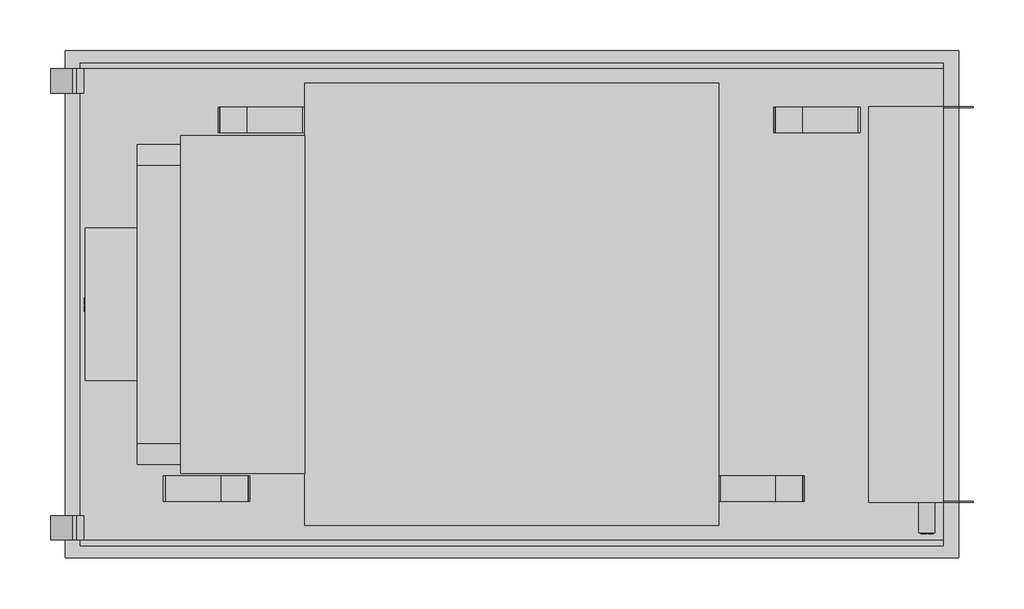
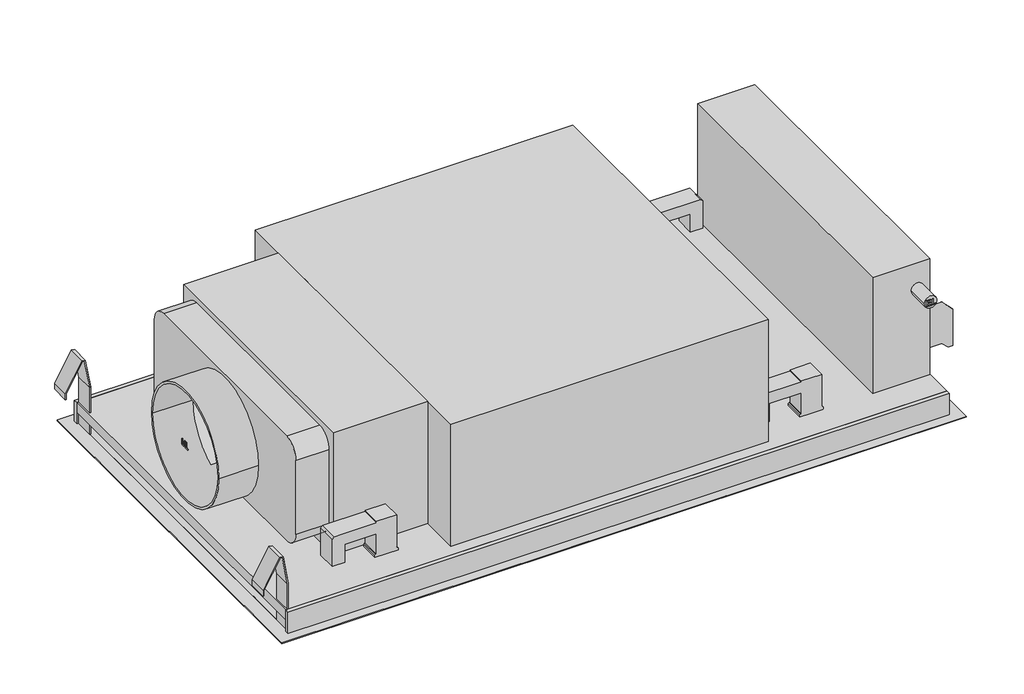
# Not in any storey: 1 proxy.
"""IFC4 building model written with IfcOpenShell, lengths in millimetres."""

import ifcopenshell
import ifcopenshell.guid

model = None  # the IFC model being written
_history = None  # IfcOwnerHistory: only IFC2X3 demands one
_inside = {}  # id of a spatial element -> (the spatial element, [elements in it])
_under = {}  # id of a project, library or spatial element -> (it, [spatial elements below it])
_declared = {}  # id of a project -> (the project, [libraries it declares])
_typed = {}  # id of a type object -> (the type object, [elements of that type])
_made_of = {}  # id of a material, layer set ... -> (it, [elements and type objects made of it])


def new_model(schema):
    """Start an empty IFC model of exactly this schema.

    Asked for "IFC4X3", IfcOpenShell would pick the latest addendum, in which some entities
    have other attributes; the version numbers below select the first issue.
    IFC2X3 requires an IfcOwnerHistory on every rooted entity: one is made here for all.
    """
    global model, _history
    if schema == "IFC4X3":
        model = ifcopenshell.file(schema_version=(4, 3, 0, 0))
    else:
        model = ifcopenshell.file(schema=schema)
    _inside.clear()
    _under.clear()
    _declared.clear()
    _typed.clear()
    _made_of.clear()
    _history = None
    if model.schema == "IFC2X3":
        org = make("IfcOrganization", Name="unknown")
        user = make(
            "IfcPersonAndOrganization",
            ThePerson=make("IfcPerson", FamilyName="unknown"),
            TheOrganization=org,
        )
        app = make(
            "IfcApplication",
            ApplicationDeveloper=org,
            Version="unknown",
            ApplicationFullName="unknown",
            ApplicationIdentifier="unknown",
        )
        _history = make(
            "IfcOwnerHistory",
            OwningUser=user,
            OwningApplication=app,
            ChangeAction="ADDED",
            CreationDate=0,
        )
    return model


def make(cls, **values):
    """One entity of the class cls with the attributes given. An attribute that is None is left unset."""
    return model.create_entity(
        cls, **{name: value for name, value in values.items() if value is not None}
    )


def rooted(cls, **values):
    """An entity with a GlobalId (a new one), such as an element, a storey or a relation."""
    return make(cls, GlobalId=ifcopenshell.guid.new(), OwnerHistory=_history, **values)


def si_unit(unit_type, name, prefix=None):
    """IfcSIUnit, for example si_unit("LENGTHUNIT", "METRE", prefix="MILLI")."""
    return make("IfcSIUnit", UnitType=unit_type, Prefix=prefix, Name=name)


def assignment(units):
    """IfcUnitAssignment: the units of a project."""
    return None if units is None else make("IfcUnitAssignment", Units=units)


def point(xyz):
    """IfcCartesianPoint."""
    return None if xyz is None else make("IfcCartesianPoint", Coordinates=xyz)


def direction(xyz):
    """IfcDirection."""
    return None if xyz is None else make("IfcDirection", DirectionRatios=xyz)


def frame(location, z_axis=None, x_axis=None):
    """IfcAxis2Placement3D, a coordinate frame: its origin and axes. An axis left out is left unset."""
    return make(
        "IfcAxis2Placement3D",
        Location=point(location),
        Axis=direction(z_axis),
        RefDirection=direction(x_axis),
    )


def frame_2d(location, x_axis=None):
    """IfcAxis2Placement2D, a coordinate frame in the plane: its origin and x axis."""
    return make(
        "IfcAxis2Placement2D", Location=point(location), RefDirection=direction(x_axis)
    )


def origin():
    """The frame at (0, 0, 0) with its axes left unset."""
    return frame((0.0, 0.0, 0.0))


def origin_with_axes():
    """The frame at (0, 0, 0) with the z axis (0, 0, 1) and the x axis (1, 0, 0) written out."""
    return frame((0.0, 0.0, 0.0), z_axis=(0.0, 0.0, 1.0), x_axis=(1.0, 0.0, 0.0))


def place(relative_to, where):
    """IfcLocalPlacement: puts the frame where relative to a parent placement (None: the world)."""
    return make(
        "IfcLocalPlacement", PlacementRelTo=relative_to, RelativePlacement=where
    )


def context(
    kind, dimensions, precision=None, world=None, true_north=None, identifier=None
):
    """IfcGeometricRepresentationContext, for example the 3D "Model" context."""
    return make(
        "IfcGeometricRepresentationContext",
        ContextIdentifier=identifier,
        ContextType=kind,
        CoordinateSpaceDimension=dimensions,
        Precision=precision,
        WorldCoordinateSystem=world,
        TrueNorth=true_north,
    )


def project(units=None, contexts=None):
    """IfcProject with its units and contexts."""
    return rooted(
        "IfcProject",
        Name="project",
        RepresentationContexts=contexts,
        UnitsInContext=assignment(units),
    )


def spatial(cls, under=None, at=None, **own):
    """A site, building, storey or space (cls), placed at a placement, below another one or the project."""
    s = rooted(cls, ObjectPlacement=at, **own)
    if under is not None:
        _under.setdefault(under.id(), (under, []))[1].append(s)
    return s


def polyline(points):
    """IfcPolyline through the points."""
    return make("IfcPolyline", Points=[point(p) for p in points])


def circle_curve(where, radius):
    """IfcCircle in the frame where."""
    return make("IfcCircle", Position=where, Radius=radius)


def ellipse_curve(where, semi_axis1, semi_axis2):
    """IfcEllipse in the frame where."""
    return make(
        "IfcEllipse", Position=where, SemiAxis1=semi_axis1, SemiAxis2=semi_axis2
    )


def trimmed(basis, trim1, trim2, sense, master):
    """IfcTrimmedCurve: the piece of a basis curve between two trims."""
    return make(
        "IfcTrimmedCurve",
        BasisCurve=basis,
        Trim1=trim1,
        Trim2=trim2,
        SenseAgreement=sense,
        MasterRepresentation=master,
    )


def segment(curve, same_sense, transition):
    """IfcCompositeCurveSegment."""
    return make(
        "IfcCompositeCurveSegment",
        Transition=transition,
        SameSense=same_sense,
        ParentCurve=curve,
    )


def composite_curve(segments, self_intersect=None):
    """IfcCompositeCurve: segments joined end to end."""
    return make("IfcCompositeCurve", Segments=segments, SelfIntersect=self_intersect)


def outline(outer, holes=None, kind="AREA"):
    """IfcArbitraryClosedProfileDef: a profile drawn as a closed curve; with holes, ...WithVoids."""
    if holes is None:
        return make("IfcArbitraryClosedProfileDef", ProfileType=kind, OuterCurve=outer)
    return make(
        "IfcArbitraryProfileDefWithVoids",
        ProfileType=kind,
        OuterCurve=outer,
        InnerCurves=holes,
    )


def extrude(swept, where, along, depth):
    """IfcExtrudedAreaSolid: the profile swept, set in the frame where, extruded along a direction by depth."""
    return make(
        "IfcExtrudedAreaSolid",
        SweptArea=swept,
        Position=where,
        ExtrudedDirection=direction(along),
        Depth=depth,
    )


def faces_of(points, faces, orient=None, outer=None):
    """IfcFace entities. A face is a list of loops; a loop is a list of indices into points, from 0.

    orient and outer hold one flag for each loop. By default every Orientation is true, the
    first loop of a face is its IfcFaceOuterBound and the others are IfcFaceBound.
    """
    made = []
    for i, loops in enumerate(faces):
        bounds = []
        for j, loop in enumerate(loops):
            is_outer = j == 0 if outer is None else outer[i][j]
            bounds.append(
                make(
                    "IfcFaceOuterBound" if is_outer else "IfcFaceBound",
                    Bound=make("IfcPolyLoop", Polygon=[points[k] for k in loop]),
                    Orientation=True if orient is None else orient[i][j],
                )
            )
        made.append(make("IfcFace", Bounds=bounds))
    return made


def faceted_brep(points, faces, orient=None, outer=None, voids=None):
    """IfcFacetedBrep: a solid bounded by flat faces; with voids (closed shells), ...WithVoids."""
    shared = [point(p) for p in points]
    hull = make("IfcClosedShell", CfsFaces=faces_of(shared, faces, orient, outer))
    if voids is None:
        return make("IfcFacetedBrep", Outer=hull)
    return make(
        "IfcFacetedBrepWithVoids",
        Outer=hull,
        Voids=[
            make(cls, CfsFaces=faces_of(shared, fs, o, b)) for cls, fs, o, b in voids
        ],
    )


def shape(context_of_items, identifier, shape_type, items):
    """IfcShapeRepresentation: the items that make up one representation, for example the "Body"."""
    return make(
        "IfcShapeRepresentation",
        ContextOfItems=context_of_items,
        RepresentationIdentifier=identifier,
        RepresentationType=shape_type,
        Items=items,
    )


def source(mapping_origin, context_of_items, identifier, shape_type, items):
    """IfcRepresentationMap: a shape defined once, which mapped items show again and again."""
    return make(
        "IfcRepresentationMap",
        MappingOrigin=mapping_origin,
        MappedRepresentation=shape(context_of_items, identifier, shape_type, items),
    )


def transform(
    local_origin,
    x_axis=None,
    y_axis=None,
    z_axis=None,
    scale=None,
    scale2=None,
    scale3=None,
    uniform=True,
):
    """IfcCartesianTransformationOperator3D, or its non-uniform kind. x_axis, y_axis, z_axis: its Axis1, 2, 3."""
    if uniform:
        return make(
            "IfcCartesianTransformationOperator3D",
            Axis1=direction(x_axis),
            Axis2=direction(y_axis),
            LocalOrigin=point(local_origin),
            Scale=scale,
            Axis3=direction(z_axis),
        )
    return make(
        "IfcCartesianTransformationOperator3DnonUniform",
        Axis1=direction(x_axis),
        Axis2=direction(y_axis),
        LocalOrigin=point(local_origin),
        Scale=scale,
        Axis3=direction(z_axis),
        Scale2=scale2,
        Scale3=scale3,
    )


def mapped(mapping_source, mapping_target):
    """IfcMappedItem: shows the shape of a source again, moved by a transform."""
    return make(
        "IfcMappedItem", MappingSource=mapping_source, MappingTarget=mapping_target
    )


def made_of(thing, what):
    """Note that an element or type object is made of a material, layer set ...; save() writes the relation."""
    if what is not None:
        _made_of.setdefault(what.id(), (what, []))[1].append(thing)
    return thing


def element(
    cls,
    number,
    at=None,
    inside=None,
    cuts=None,
    type_object=None,
    material=None,
    context=None,
    identifier="Body",
    shape_type=None,
    held_by="IfcProductDefinitionShape",
    body=None,
    shapes=None,
    **own,
):
    """One element of the class cls, such as IfcWall. Its Tag is "e" and its number.

    at: its placement. inside: the storey or other place that contains it. cuts: it is an
    opening in that element (IfcRelVoidsElement). A single representation is given by context,
    identifier, shape_type and body (its items); several are given by shapes. held_by: the class
    of the entity that holds the representations. save() writes the other relations.
    """
    e = rooted(cls, Tag="e%d" % number, ObjectPlacement=at, **own)
    if body is not None:
        shapes = [shape(context, identifier, shape_type, body)]
    if shapes is not None:
        e.Representation = make(held_by, Representations=shapes)
    if inside is not None:
        _inside.setdefault(inside.id(), (inside, []))[1].append(e)
    if cuts is not None:
        rooted(
            "IfcRelVoidsElement", RelatingBuildingElement=cuts, RelatedOpeningElement=e
        )
    if type_object is not None:
        _typed.setdefault(type_object.id(), (type_object, []))[1].append(e)
    return made_of(e, material)


def aggregate(whole, parts):
    """IfcRelAggregates: a whole, such as a stair, and the parts it consists of."""
    return rooted("IfcRelAggregates", RelatingObject=whole, RelatedObjects=parts)


def save(model, path):
    """Write the relations noted so far, then the file.

    IfcRelAggregates (storeys below a building ...), IfcRelContainedInSpatialStructure (elements
    in a storey), IfcRelDefinesByType, IfcRelAssociatesMaterial and IfcRelDeclares: one each for
    every whole, place, type object, material and project.
    """
    for whole, parts in _under.values():
        aggregate(whole, parts)
    for where, things in _inside.values():
        rooted(
            "IfcRelContainedInSpatialStructure",
            RelatedElements=things,
            RelatingStructure=where,
        )
    for kind, things in _typed.values():
        rooted("IfcRelDefinesByType", RelatedObjects=things, RelatingType=kind)
    for what, things in _made_of.values():
        rooted("IfcRelAssociatesMaterial", RelatedObjects=things, RelatingMaterial=what)
    for by, libraries in _declared.values():
        rooted("IfcRelDeclares", RelatingContext=by, RelatedDefinitions=libraries)
    model.write(path)


def plane_surface(at):
    """IfcPlane: the flat surface through the origin of the frame at, square to its z axis."""
    return make("IfcPlane", Position=at)


def cylinder_surface(at, radius):
    """IfcCylindricalSurface: all points at the distance radius from the z axis of the frame at."""
    return make("IfcCylindricalSurface", Position=at, Radius=radius)


def revolved_surface(curve, axis_point, axis_direction):
    """IfcSurfaceOfRevolution: the curve turned about the line through axis_point along axis_direction."""
    return make(
        "IfcSurfaceOfRevolution",
        SweptCurve=make("IfcArbitraryOpenProfileDef", ProfileType="CURVE", Curve=curve),
        AxisPosition=make("IfcAxis1Placement", Location=point(axis_point), Axis=direction(axis_direction)),
    )


def extruded_surface(curve, direction_of_extrusion, depth):
    """IfcSurfaceOfLinearExtrusion: the curve pushed along a direction by depth."""
    return make(
        "IfcSurfaceOfLinearExtrusion",
        SweptCurve=make("IfcArbitraryOpenProfileDef", ProfileType="CURVE", Curve=curve),
        ExtrudedDirection=direction(direction_of_extrusion),
        Depth=depth,
    )


def advanced_brep(points, edges, surfaces, faces):
    """IfcAdvancedBrep: a solid bounded by faces that lie on surfaces and meet in shared edges.

    An edge is (start, end): straight between two places in points (the first is 0);
    or (start, end, curve); or (start, end, curve, False) where it runs against its curve.
    A face is (place in surfaces, loops), or (place, loops, False) where it looks against
    its surface's normal. A loop lists edges by number (the first is 1), with a minus sign
    where the edge is run from its end to its start. The first loop is the outer one.
    """
    corners = [point(p) for p in points]
    vertices = [make("IfcVertexPoint", VertexGeometry=c) for c in corners]
    made = []
    for start, end, *more in edges:
        made.append(
            make(
                "IfcEdgeCurve",
                EdgeStart=vertices[start],
                EdgeEnd=vertices[end],
                EdgeGeometry=more[0] if more else make("IfcPolyline", Points=[corners[start], corners[end]]),
                SameSense=more[1] if len(more) > 1 else True,
            )
        )
    hull = []
    for where, loops, *sense in faces:
        bounds = []
        for j, loop in enumerate(loops):
            ring = [make("IfcOrientedEdge", EdgeElement=made[abs(k) - 1], Orientation=k > 0) for k in loop]
            bounds.append(
                make(
                    "IfcFaceOuterBound" if j == 0 else "IfcFaceBound",
                    Bound=make("IfcEdgeLoop", EdgeList=ring),
                    Orientation=True,
                )
            )
        hull.append(make("IfcAdvancedFace", Bounds=bounds, FaceSurface=surfaces[where], SameSense=sense[0] if sense else True))
    return make("IfcAdvancedBrep", Outer=make("IfcClosedShell", CfsFaces=hull))


def specialty_equipment_2b08fcfb(model_context):
    return source(origin(), model_context, "Body", "SolidModel", [
        extrude(outline(polyline([(0.0, 0.0), (1.1495, 0.0), (1.1495, 6.3555), (0.0, 6.3555), (0.0, 7.9515), (4.18, 7.9515), (4.18, 6.3555), (3.04, 6.3555), (3.04, 2.3238752), (7.2865, 7.9515), (11.552, 2.1987777), (11.552, 6.3555), (10.3835, 6.3555), (10.3835, 7.9515), (17.9645, 7.9515), (17.9645, 6.3555), (16.758, 6.3555), (16.758, 0.0), (17.9645, 0.0), (17.9645, -1.5485), (12.179, -1.5485), (9.405, 2.014), (6.6215, -1.5485), (0.0, -1.5485), (0.0, 0.0)])), frame((-394.9682202, 221.9339142, 5.9781829), z_axis=(-0.25881904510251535, 0.0, 0.9659258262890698), x_axis=(0.0, 1.0, 0.0)), (0.0, 0.0, 1.0), 1.0),
        extrude(outline(polyline([(0.0, 0.0), (1.14, 0.0), (1.14, 6.3555), (0.0, 6.3555), (0.0, 7.9515), (7.7045, 7.9515), (7.7045, 6.3555), (6.536, 6.3555), (6.536, -1.5485), (0.0, -1.5485), (0.0, 0.0)])), frame((-394.9682202, 260.4849142, 5.9781829), z_axis=(-0.25881904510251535, 0.0, 0.9659258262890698), x_axis=(0.0, 1.0, 0.0)), (0.0, 0.0, 1.0), 1.0),
        extrude(outline(polyline([(0.0, 0.0), (1.6999427, 0.0), (1.7088618, -3.5531031), (0.012954, -3.5617037), (0.0, 0.0)])), frame((-394.0138855, 243.2139142, 6.2338962), z_axis=(-0.25881904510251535, 0.0, 0.9659258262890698), x_axis=(-0.8744764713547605, 0.42472021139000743, -0.23431526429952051)), (0.0, 0.0, 1.0), 1.0),
        extrude(outline(polyline([(0.5859016, 2.8667553), (2.1254061, 3.588992), (2.6055523, 2.5655224), (6.1317919, 4.2198077), (5.6516457, 5.2432772), (7.0965438, 5.9211306), (10.2800342, -0.8647304), (8.835136, -1.5425838), (8.3670943, -0.544916), (3.3013503, -2.921438), (0.5859016, 2.8667553)])), frame((-394.0138855, 243.2139142, 6.2338962), z_axis=(-0.25881904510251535, 0.0, 0.9659258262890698), x_axis=(-0.8744764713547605, 0.42472021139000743, -0.23431526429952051)), (0.0, 0.0, 1.0), 1.0),
        advanced_brep(
        [(-400.4739974, 253.5974142, 4.5029144), (-399.5471916, 253.5974142, 4.7512513), (-399.5471916, 259.9529142, 4.7512513), (-399.5471916, 248.8949142, 4.7512513), (-402.6487794, 251.5074142, 3.9201833), (-400.4739974, 259.7914142, 4.5029144), (-400.4739974, 256.9224142, 4.5029144), (-401.5017425, 254.6614142, 4.2275309), (-398.3726258, 253.5974142, 5.0659752), (-397.3724096, 253.5974142, 5.3339823), (-397.3724096, 255.2219142, 5.3339823), (-398.3726258, 255.2219142, 5.0659752), (-400.7328165, 253.5974142, 5.4688402), (-401.7605616, 254.6614142, 5.1934567), (-400.7328165, 256.9224142, 5.4688402), (-400.7328165, 259.7914142, 5.4688402), (-402.9075985, 251.5074142, 4.8861091), (-399.8060106, 248.8949142, 5.7171771), (-399.8060106, 259.9529142, 5.7171771), (-399.8060106, 253.5974142, 5.7171771), (-398.6314448, 253.5974142, 6.031901), (-398.6314448, 255.2219142, 6.031901), (-397.6312286, 255.2219142, 6.2999082), (-397.6312286, 253.5974142, 6.2999082)],
        [
            (0, 1),
            (1, 2),
            (2, 3, ellipse_curve(frame((-399.5471916, 254.4239142, 4.7512513), z_axis=(0.25881904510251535, 0.0, -0.9659258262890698), x_axis=(0.0, -1.0, 0.0)), 5.529, 4.5695)),
            (3, 4, circle_curve(frame((-399.2351976, 252.571466, 4.8348498), z_axis=(0.25881904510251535, 0.0, -0.9659258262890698), x_axis=(-0.9659258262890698, 0.0, -0.25881904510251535)), 3.690713)),
            (4, 5, circle_curve(frame((-396.8126556, 254.3132316, 5.483968), z_axis=(0.25881904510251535, 0.0, -0.9659258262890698), x_axis=(-0.9659258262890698, 0.0, -0.25881904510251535)), 6.6617096)),
            (5, 6),
            (6, 7, circle_curve(frame((-399.620602, 255.1257966, 4.731581), z_axis=(-0.25881904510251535, 0.0, 0.9659258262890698), x_axis=(-0.9659258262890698, 0.0, -0.25881904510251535)), 2.0021007)),
            (7, 0, circle_curve(frame((-400.4739974, 254.6614142, 4.5029144), z_axis=(-0.25881904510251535, 0.0, 0.9659258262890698), x_axis=(-0.9659258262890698, 0.0, -0.25881904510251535)), 1.064)),
            (8, 9),
            (9, 10, circle_curve(frame((-397.3724096, 254.4096642, 5.3339823), z_axis=(-0.25881904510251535, 0.0, 0.9659258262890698), x_axis=(-0.9659258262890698, 0.0, -0.25881904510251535)), 0.81225)),
            (10, 11),
            (11, 8),
            (12, 13, circle_curve(frame((-400.7328165, 254.6614142, 5.4688402), z_axis=(0.25881904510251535, 0.0, -0.9659258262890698), x_axis=(-0.9659258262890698, 0.0, -0.25881904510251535)), 1.064)),
            (13, 14, circle_curve(frame((-399.879421, 255.1257966, 5.6975068), z_axis=(0.25881904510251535, 0.0, -0.9659258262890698), x_axis=(-0.9659258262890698, 0.0, -0.25881904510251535)), 2.0021007)),
            (14, 15),
            (15, 16, circle_curve(frame((-397.0714746, 254.3132316, 6.4498938), z_axis=(-0.25881904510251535, 0.0, 0.9659258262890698), x_axis=(-0.9659258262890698, 0.0, -0.25881904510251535)), 6.6617096)),
            (16, 17, circle_curve(frame((-399.4940166, 252.571466, 5.8007756), z_axis=(-0.25881904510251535, 0.0, 0.9659258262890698), x_axis=(-0.9659258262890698, 0.0, -0.25881904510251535)), 3.690713)),
            (17, 18, ellipse_curve(frame((-399.8060106, 254.4239142, 5.7171771), z_axis=(-0.25881904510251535, 0.0, 0.9659258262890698), x_axis=(0.0, -1.0, 0.0)), 5.529, 4.5695)),
            (18, 19),
            (19, 12),
            (20, 21),
            (21, 22),
            (22, 23, circle_curve(frame((-397.6312286, 254.4096642, 6.2999082), z_axis=(0.25881904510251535, 0.0, -0.9659258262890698), x_axis=(-0.9659258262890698, 0.0, -0.25881904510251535)), 0.81225)),
            (23, 20),
            (0, 12),
            (19, 1),
            (18, 2),
            (5, 15),
            (14, 6),
            (17, 3),
            (13, 7),
            (16, 4),
            (8, 20),
            (23, 9),
            (22, 10),
            (21, 11),
        ],
        [
            plane_surface(frame((-399.5471916, 253.5974142, 4.7512513), z_axis=(0.25881904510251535, 0.0, -0.9659258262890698), x_axis=(0.9659258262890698, 0.0, 0.25881904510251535))),
            plane_surface(frame((-399.8060106, 253.5974142, 5.7171771), z_axis=(-0.25881904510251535, 0.0, 0.9659258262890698), x_axis=(-0.9659258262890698, 0.0, -0.25881904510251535))),
            plane_surface(frame((-400.4739974, 253.5974142, 4.5029144), z_axis=(0.0, 1.0000000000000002, 0.0), x_axis=(-0.2588190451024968, 0.0, 0.9659258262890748))),
            plane_surface(frame((-399.5471916, 253.5974142, 4.7512513), z_axis=(-0.9659258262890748, 0.0, -0.2588190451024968), x_axis=(-0.2588190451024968, 0.0, 0.9659258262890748))),
            plane_surface(frame((-400.4739974, 259.7914142, 4.5029144), z_axis=(0.9659258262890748, 0.0, 0.2588190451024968), x_axis=(-0.2588190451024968, 0.0, 0.9659258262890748))),
            extruded_surface(trimmed(ellipse_curve(frame((-400.0648297, 254.4239142, 6.6831029), z_axis=(0.25881904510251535, 0.0, -0.9659258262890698), x_axis=(0.0, -1.0, 0.0)), 5.529, 4.5695), [point((-400.0648297, 259.9529142, 6.6831029))], [point((-400.0648297, 248.8949142, 6.6831029))], True, "CARTESIAN"), (0.25881910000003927, 0.0, -0.9659258), 0.999999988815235),
            revolved_surface(polyline([(-401.81330178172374, 255.1257966, 5.179325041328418), (-401.55448273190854, 255.1257966, 4.213399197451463)]), (-399.879421, 255.1257966, 5.6975068), (-0.25881904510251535, 0.0, 0.9659258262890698)),
            revolved_surface(polyline([(-401.76056157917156, 254.6614142, 5.193456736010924), (-401.50174252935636, 254.6614142, 4.227530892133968)]), (-400.7328165, 254.6614142, 5.4688402), (-0.25881904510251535, 0.0, 0.9659258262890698)),
            cylinder_surface(frame((-399.4940166, 252.571466, 5.8007756), z_axis=(0.25881904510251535, 0.0, -0.9659258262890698), x_axis=(-0.9659258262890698, 0.0, -0.25881904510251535)), 3.690713),
            cylinder_surface(frame((-397.0714746, 254.3132316, 6.4498938), z_axis=(0.25881904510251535, 0.0, -0.9659258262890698), x_axis=(-0.9659258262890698, 0.0, -0.25881904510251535)), 6.6617096),
            plane_surface(frame((-398.3726258, 253.5974142, 5.0659752), z_axis=(0.0, 1.0000000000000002, 0.0), x_axis=(-0.2588190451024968, 0.0, 0.9659258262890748))),
            revolved_surface(polyline([(-398.41580185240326, 254.4096642, 6.089682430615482), (-398.15698279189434, 254.4096642, 5.123756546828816)]), (-397.6312286, 254.4096642, 6.2999082), (-0.25881904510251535, 0.0, 0.9659258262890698)),
            plane_surface(frame((-397.3724096, 255.2219142, 5.3339823), z_axis=(0.0, -1.0000000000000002, 0.0), x_axis=(-0.2588190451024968, 0.0, 0.9659258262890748))),
            plane_surface(frame((-398.3726258, 255.2219142, 5.0659752), z_axis=(0.9659258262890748, 0.0, 0.2588190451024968), x_axis=(-0.2588190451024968, 0.0, 0.9659258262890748))),
        ],
        [
            (0, [[1, 2, 3, 4, 5, 6, 7, 8], [9, 10, 11, 12]]),
            (1, [[13, 14, 15, 16, 17, 18, 19, 20], [21, 22, 23, 24]]),
            (2, [[-1, 25, -20, 26]]),
            (3, [[-2, -26, -19, 27]]),
            (4, [[-6, 28, -15, 29]]),
            (5, [[-3, -27, -18, 30]]),
            (6, [[-7, -29, -14, 31]]),
            (7, [[-8, -31, -13, -25]]),
            (8, [[-4, -30, -17, 32]]),
            (9, [[-5, -32, -16, -28]]),
            (10, [[-9, 33, -24, 34]]),
            (11, [[-10, -34, -23, 35]]),
            (12, [[-11, -35, -22, 36]]),
            (13, [[-12, -36, -21, -33]]),
        ],
    ),
        advanced_brep(
        [(-400.4739974, 273.4239142, 4.5029144), (-399.5471916, 273.4239142, 4.7512513), (-399.5471916, 279.7794142, 4.7512513), (-399.5471916, 268.7214142, 4.7512513), (-402.6487794, 271.3339142, 3.9201833), (-400.4739974, 279.6179142, 4.5029144), (-400.4739974, 276.7489142, 4.5029144), (-401.5017425, 274.4879142, 4.2275309), (-398.3726258, 273.4239142, 5.0659752), (-397.3724096, 273.4239142, 5.3339823), (-397.3724096, 275.0484142, 5.3339823), (-398.3726258, 275.0484142, 5.0659752), (-400.7328165, 273.4239142, 5.4688402), (-401.7605616, 274.4879142, 5.1934567), (-400.7328165, 276.7489142, 5.4688402), (-400.7328165, 279.6179142, 5.4688402), (-402.9075985, 271.3339142, 4.8861091), (-399.8060106, 268.7214142, 5.7171771), (-399.8060106, 279.7794142, 5.7171771), (-399.8060106, 273.4239142, 5.7171771), (-398.6314448, 273.4239142, 6.031901), (-398.6314448, 275.0484142, 6.031901), (-397.6312286, 275.0484142, 6.2999082), (-397.6312286, 273.4239142, 6.2999082)],
        [
            (0, 1),
            (1, 2),
            (2, 3, ellipse_curve(frame((-399.5471916, 274.2504142, 4.7512513), z_axis=(0.25881904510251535, 0.0, -0.9659258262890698), x_axis=(0.0, -1.0, 0.0)), 5.529, 4.5695)),
            (3, 4, circle_curve(frame((-399.2351976, 272.397966, 4.8348498), z_axis=(0.25881904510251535, 0.0, -0.9659258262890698), x_axis=(-0.9659258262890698, 0.0, -0.25881904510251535)), 3.690713)),
            (4, 5, circle_curve(frame((-396.8126556, 274.1397316, 5.483968), z_axis=(0.25881904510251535, 0.0, -0.9659258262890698), x_axis=(-0.9659258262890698, 0.0, -0.25881904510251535)), 6.6617096)),
            (5, 6),
            (6, 7, circle_curve(frame((-399.620602, 274.9522966, 4.731581), z_axis=(-0.25881904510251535, 0.0, 0.9659258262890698), x_axis=(-0.9659258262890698, 0.0, -0.25881904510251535)), 2.0021007)),
            (7, 0, circle_curve(frame((-400.4739974, 274.4879142, 4.5029144), z_axis=(-0.25881904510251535, 0.0, 0.9659258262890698), x_axis=(-0.9659258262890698, 0.0, -0.25881904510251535)), 1.064)),
            (8, 9),
            (9, 10, circle_curve(frame((-397.3724096, 274.2361642, 5.3339823), z_axis=(-0.25881904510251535, 0.0, 0.9659258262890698), x_axis=(-0.9659258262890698, 0.0, -0.25881904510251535)), 0.81225)),
            (10, 11),
            (11, 8),
            (12, 13, circle_curve(frame((-400.7328165, 274.4879142, 5.4688402), z_axis=(0.25881904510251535, 0.0, -0.9659258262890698), x_axis=(-0.9659258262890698, 0.0, -0.25881904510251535)), 1.064)),
            (13, 14, circle_curve(frame((-399.879421, 274.9522966, 5.6975068), z_axis=(0.25881904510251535, 0.0, -0.9659258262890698), x_axis=(-0.9659258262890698, 0.0, -0.25881904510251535)), 2.0021007)),
            (14, 15),
            (15, 16, circle_curve(frame((-397.0714746, 274.1397316, 6.4498938), z_axis=(-0.25881904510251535, 0.0, 0.9659258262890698), x_axis=(-0.9659258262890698, 0.0, -0.25881904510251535)), 6.6617096)),
            (16, 17, circle_curve(frame((-399.4940166, 272.397966, 5.8007756), z_axis=(-0.25881904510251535, 0.0, 0.9659258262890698), x_axis=(-0.9659258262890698, 0.0, -0.25881904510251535)), 3.690713)),
            (17, 18, ellipse_curve(frame((-399.8060106, 274.2504142, 5.7171771), z_axis=(-0.25881904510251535, 0.0, 0.9659258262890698), x_axis=(0.0, -1.0, 0.0)), 5.529, 4.5695)),
            (18, 19),
            (19, 12),
            (20, 21),
            (21, 22),
            (22, 23, circle_curve(frame((-397.6312286, 274.2361642, 6.2999082), z_axis=(0.25881904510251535, 0.0, -0.9659258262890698), x_axis=(-0.9659258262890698, 0.0, -0.25881904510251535)), 0.81225)),
            (23, 20),
            (0, 12),
            (19, 1),
            (18, 2),
            (5, 15),
            (14, 6),
            (17, 3),
            (13, 7),
            (16, 4),
            (8, 20),
            (23, 9),
            (22, 10),
            (21, 11),
        ],
        [
            plane_surface(frame((-399.5471916, 273.4239142, 4.7512513), z_axis=(0.25881904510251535, 0.0, -0.9659258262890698), x_axis=(0.9659258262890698, 0.0, 0.25881904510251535))),
            plane_surface(frame((-399.8060106, 273.4239142, 5.7171771), z_axis=(-0.25881904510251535, 0.0, 0.9659258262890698), x_axis=(-0.9659258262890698, 0.0, -0.25881904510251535))),
            plane_surface(frame((-400.4739974, 273.4239142, 4.5029144), z_axis=(0.0, 1.0000000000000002, 0.0), x_axis=(-0.2588190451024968, 0.0, 0.9659258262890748))),
            plane_surface(frame((-399.5471916, 273.4239142, 4.7512513), z_axis=(-0.9659258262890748, 0.0, -0.2588190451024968), x_axis=(-0.2588190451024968, 0.0, 0.9659258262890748))),
            plane_surface(frame((-400.4739974, 279.6179142, 4.5029144), z_axis=(0.9659258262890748, 0.0, 0.2588190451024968), x_axis=(-0.2588190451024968, 0.0, 0.9659258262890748))),
            extruded_surface(trimmed(ellipse_curve(frame((-400.0648297, 274.2504142, 6.6831029), z_axis=(0.25881904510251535, 0.0, -0.9659258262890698), x_axis=(0.0, -1.0, 0.0)), 5.529, 4.5695), [point((-400.0648297, 279.7794142, 6.6831029))], [point((-400.0648297, 268.7214142, 6.6831029))], True, "CARTESIAN"), (0.25881910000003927, 0.0, -0.9659258), 0.999999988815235),
            revolved_surface(polyline([(-401.81330178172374, 274.9522966, 5.179325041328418), (-401.55448273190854, 274.9522966, 4.213399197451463)]), (-399.879421, 274.9522966, 5.6975068), (-0.25881904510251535, 0.0, 0.9659258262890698)),
            revolved_surface(polyline([(-401.76056157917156, 274.4879142, 5.193456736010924), (-401.50174252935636, 274.4879142, 4.227530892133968)]), (-400.7328165, 274.4879142, 5.4688402), (-0.25881904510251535, 0.0, 0.9659258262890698)),
            cylinder_surface(frame((-399.4940166, 272.397966, 5.8007756), z_axis=(0.25881904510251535, 0.0, -0.9659258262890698), x_axis=(-0.9659258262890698, 0.0, -0.25881904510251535)), 3.690713),
            cylinder_surface(frame((-397.0714746, 274.1397316, 6.4498938), z_axis=(0.25881904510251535, 0.0, -0.9659258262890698), x_axis=(-0.9659258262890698, 0.0, -0.25881904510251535)), 6.6617096),
            plane_surface(frame((-398.3726258, 273.4239142, 5.0659752), z_axis=(0.0, 1.0000000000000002, 0.0), x_axis=(-0.2588190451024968, 0.0, 0.9659258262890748))),
            revolved_surface(polyline([(-398.41580185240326, 274.2361642, 6.089682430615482), (-398.15698279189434, 274.2361642, 5.123756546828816)]), (-397.6312286, 274.2361642, 6.2999082), (-0.25881904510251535, 0.0, 0.9659258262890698)),
            plane_surface(frame((-397.3724096, 275.0484142, 5.3339823), z_axis=(0.0, -1.0000000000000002, 0.0), x_axis=(-0.2588190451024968, 0.0, 0.9659258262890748))),
            plane_surface(frame((-398.3726258, 275.0484142, 5.0659752), z_axis=(0.9659258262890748, 0.0, 0.2588190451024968), x_axis=(-0.2588190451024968, 0.0, 0.9659258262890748))),
        ],
        [
            (0, [[1, 2, 3, 4, 5, 6, 7, 8], [9, 10, 11, 12]]),
            (1, [[13, 14, 15, 16, 17, 18, 19, 20], [21, 22, 23, 24]]),
            (2, [[-1, 25, -20, 26]]),
            (3, [[-2, -26, -19, 27]]),
            (4, [[-6, 28, -15, 29]]),
            (5, [[-3, -27, -18, 30]]),
            (6, [[-7, -29, -14, 31]]),
            (7, [[-8, -31, -13, -25]]),
            (8, [[-4, -30, -17, 32]]),
            (9, [[-5, -32, -16, -28]]),
            (10, [[-9, 33, -24, 34]]),
            (11, [[-10, -34, -23, 35]]),
            (12, [[-11, -35, -22, 36]]),
            (13, [[-12, -36, -21, -33]]),
        ],
    ),
        extrude(outline(polyline([(-204.0, 416.5106201), (-204.0, 83.4893799), (-326.0, 83.4893799), (-326.0, 416.5106201), (-204.0, 416.5106201)])), frame((0.0, 0.0, 30.0), z_axis=(0.0, 0.0, 1.0), x_axis=(1.0, 0.0, 0.0)), (0.0, 0.0, 1.0), 166.0),
        extrude(outline(polyline([(425.1935243, 445.0), (425.1935243, 55.0), (351.6000061, 55.0), (351.6000061, 445.0), (425.1935243, 445.0)])), frame((0.0, 0.0, 30.0), z_axis=(0.0, 0.0, 1.0), x_axis=(1.0, 0.0, 0.0)), (0.0, 0.0, 1.0), 157.6000061),
        advanced_brep(
        [(-326.0, 407.6883545, 67.4832764), (-326.0, 407.6883545, 168.5167236), (-326.0, 387.0167236, 189.1883545), (-326.0, 112.9832764, 189.1883545), (-326.0, 92.3116455, 168.5167236), (-326.0, 92.3116455, 67.4832764), (-326.0, 112.9832764, 46.8116455), (-326.0, 211.5404146, 46.8116455), (-326.0, 288.4595854, 46.8116455), (-326.0, 387.0167236, 46.8116455), (-326.0, 322.0, 111.2000008), (-326.0, 282.2201755, 46.8116455), (-326.0, 217.7798245, 46.8116455), (-326.0, 178.0, 111.2000008), (-368.7057465, 407.6883545, 67.4832764), (-368.7057465, 387.0167236, 46.8116455), (-368.7057465, 288.4595854, 46.8116455), (-368.7057465, 325.0, 111.2000008), (-368.7057465, 175.0, 111.2000008), (-368.7057465, 211.5404146, 46.8116455), (-368.7057465, 112.9832764, 46.8116455), (-368.7057465, 92.3116455, 67.4832764), (-368.7057465, 92.3116455, 168.5167236), (-368.7057465, 112.9832764, 189.1883545), (-368.7057465, 387.0167236, 189.1883545), (-368.7057465, 407.6883545, 168.5167236), (-420.0, 175.0, 111.2000008), (-420.0, 325.0, 111.2000008), (-420.0, 178.0, 111.2000008), (-420.0, 322.0, 111.2000008), (-368.7057465, 322.0, 111.2000008), (-368.7057465, 178.0, 111.2000008), (-368.7057465, 217.7798245, 46.8116455), (-368.7057465, 282.2201755, 46.8116455)],
        [
            (0, 1),
            (1, 2, circle_curve(frame((-326.0, 387.0167236, 168.5167236), z_axis=(1.0, 0.0, 0.0), x_axis=(0.0, 1.0, 0.0)), 20.6716309)),
            (2, 3),
            (3, 4, circle_curve(frame((-326.0, 112.9832764, 168.5167236), z_axis=(1.0, 0.0, 0.0), x_axis=(0.0, 1.0, 0.0)), 20.6716309)),
            (4, 5),
            (5, 6, circle_curve(frame((-326.0, 112.9832764, 67.4832764), z_axis=(1.0, 0.0, 0.0), x_axis=(0.0, 1.0, 0.0)), 20.6716309)),
            (6, 7),
            (7, 8, circle_curve(frame((-326.0, 250.0, 111.2000008), z_axis=(1.0, 0.0, 0.0), x_axis=(0.0, 1.0, 0.0)), 75.0)),
            (8, 9),
            (9, 0, circle_curve(frame((-326.0, 387.0167236, 67.4832764), z_axis=(1.0, 0.0, 0.0), x_axis=(0.0, 1.0, 0.0)), 20.6716309)),
            (10, 11, circle_curve(frame((-326.0, 250.0, 111.2000008), z_axis=(-1.0, 0.0, 0.0), x_axis=(0.0, 1.0, 0.0)), 72.0)),
            (11, 12, circle_curve(frame((-326.0, 250.0, 111.2000008), z_axis=(-1.0, 0.0, 0.0), x_axis=(0.0, 1.0, 0.0)), 72.0)),
            (12, 13, circle_curve(frame((-326.0, 250.0, 111.2000008), z_axis=(-1.0, 0.0, 0.0), x_axis=(0.0, 1.0, 0.0)), 72.0)),
            (13, 10, circle_curve(frame((-326.0, 250.0, 111.2000008), z_axis=(-1.0, 0.0, 0.0), x_axis=(0.0, 1.0, 0.0)), 72.0)),
            (14, 15, circle_curve(frame((-368.7057465, 387.0167236, 67.4832764), z_axis=(-1.0, 0.0, 0.0), x_axis=(0.0, 1.0, 0.0)), 20.6716309)),
            (15, 16),
            (16, 17, circle_curve(frame((-368.7057465, 250.0, 111.2000008), z_axis=(1.0, 0.0, 0.0), x_axis=(0.0, 1.0, 0.0)), 75.0)),
            (17, 18, circle_curve(frame((-368.7057465, 250.0, 111.2000008), z_axis=(1.0, 0.0, 0.0), x_axis=(0.0, 1.0, 0.0)), 75.0)),
            (18, 19, circle_curve(frame((-368.7057465, 250.0, 111.2000008), z_axis=(1.0, 0.0, 0.0), x_axis=(0.0, 1.0, 0.0)), 75.0)),
            (19, 20),
            (20, 21, circle_curve(frame((-368.7057465, 112.9832764, 67.4832764), z_axis=(-1.0, 0.0, 0.0), x_axis=(0.0, 1.0, 0.0)), 20.6716309)),
            (21, 22),
            (22, 23, circle_curve(frame((-368.7057465, 112.9832764, 168.5167236), z_axis=(-1.0, 0.0, 0.0), x_axis=(0.0, 1.0, 0.0)), 20.6716309)),
            (23, 24),
            (24, 25, circle_curve(frame((-368.7057465, 387.0167236, 168.5167236), z_axis=(-1.0, 0.0, 0.0), x_axis=(0.0, 1.0, 0.0)), 20.6716309)),
            (25, 14),
            (0, 14),
            (25, 1),
            (24, 2),
            (23, 3),
            (22, 4),
            (21, 5),
            (20, 6),
            (19, 7),
            (15, 9),
            (8, 16),
            (26, 27, circle_curve(frame((-420.0, 250.0, 111.2000008), z_axis=(-1.0, 0.0, 0.0), x_axis=(0.0, 1.0, 0.0)), 75.0)),
            (27, 26, circle_curve(frame((-420.0, 250.0, 111.2000008), z_axis=(-1.0, 0.0, 0.0), x_axis=(0.0, 1.0, 0.0)), 75.0)),
            (28, 29, circle_curve(frame((-420.0, 250.0, 111.2000008), z_axis=(1.0, 0.0, 0.0), x_axis=(0.0, 1.0, 0.0)), 72.0)),
            (29, 28, circle_curve(frame((-420.0, 250.0, 111.2000008), z_axis=(1.0, 0.0, 0.0), x_axis=(0.0, 1.0, 0.0)), 72.0)),
            (27, 17),
            (18, 26),
            (29, 30),
            (30, 31, circle_curve(frame((-368.7057465, 250.0, 111.2000008), z_axis=(1.0, 0.0, 0.0), x_axis=(0.0, 1.0, 0.0)), 72.0)),
            (31, 28),
            (31, 32, circle_curve(frame((-368.7057465, 250.0, 111.2000008), z_axis=(1.0, 0.0, 0.0), x_axis=(0.0, 1.0, 0.0)), 72.0)),
            (32, 12),
            (11, 33),
            (33, 30, circle_curve(frame((-368.7057465, 250.0, 111.2000008), z_axis=(1.0, 0.0, 0.0), x_axis=(0.0, 1.0, 0.0)), 72.0)),
            (31, 13),
            (10, 30),
        ],
        [
            plane_surface(frame((-326.0, 407.6883545, 168.5167236), z_axis=(1.0, 0.0, 0.0), x_axis=(0.0, 0.0, 1.0))),
            plane_surface(frame((-368.7057465, 407.6883545, 168.5167236), z_axis=(-1.0, 0.0, 0.0), x_axis=(0.0, 0.0, -1.0))),
            plane_surface(frame((-326.0, 407.6883545, 67.4832764), z_axis=(0.0, 1.0, 0.0), x_axis=(-1.0, 0.0, 0.0))),
            cylinder_surface(frame((-368.7057465, 387.0167236, 168.5167236), z_axis=(1.0, 0.0, 0.0), x_axis=(0.0, 1.0, 0.0)), 20.6716309),
            plane_surface(frame((-326.0, 387.0167236, 189.1883545), z_axis=(0.0, 0.0, 1.0), x_axis=(-1.0, 0.0, 0.0))),
            cylinder_surface(frame((-368.7057465, 112.9832764, 168.5167236), z_axis=(1.0, 0.0, 0.0), x_axis=(0.0, 1.0, 0.0)), 20.6716309),
            plane_surface(frame((-326.0, 92.3116455, 168.5167236), z_axis=(0.0, -1.0, 0.0), x_axis=(-1.0, 0.0, 0.0))),
            cylinder_surface(frame((-368.7057465, 112.9832764, 67.4832764), z_axis=(1.0, 0.0, 0.0), x_axis=(0.0, 1.0, 0.0)), 20.6716309),
            plane_surface(frame((-326.0, 112.9832764, 46.8116455), z_axis=(0.0, 0.0, -1.0), x_axis=(-1.0, 0.0, 0.0))),
            cylinder_surface(frame((-368.7057465, 387.0167236, 67.4832764), z_axis=(1.0, 0.0, 0.0), x_axis=(0.0, 1.0, 0.0)), 20.6716309),
            plane_surface(frame((-420.0, 325.0, 111.2000008), z_axis=(-1.0, 0.0, 0.0), x_axis=(0.0, 0.0, -1.0))),
            cylinder_surface(frame((-420.0, 250.0, 111.2000008), z_axis=(1.0, 0.0, 0.0), x_axis=(0.0, 1.0, 0.0)), 75.0),
            revolved_surface(polyline([(-420.0, 322.0, 111.2000008), (-368.7057465, 322.0, 111.2000008)]), (0.0, 250.0, 111.2000008), (-1.0, 0.0, 0.0)),
            revolved_surface(polyline([(-420.0, 322.0, 111.2000008), (-326.0, 322.0, 111.2000008)]), (0.0, 250.0, 111.2000008), (-1.0, 0.0, 0.0)),
            revolved_surface(polyline([(-326.0, 322.0, 111.2000008), (-368.7057465, 322.0, 111.2000008)]), (-420.0, 250.0, 111.2000008), (1.0, 0.0, 0.0)),
        ],
        [
            (0, [[1, 2, 3, 4, 5, 6, 7, 8, 9, 10], [11, 12, 13, 14]]),
            (1, [[15, 16, 17, 18, 19, 20, 21, 22, 23, 24, 25, 26]]),
            (2, [[-1, 27, -26, 28]]),
            (3, [[-2, -28, -25, 29]]),
            (4, [[-3, -29, -24, 30]]),
            (5, [[-4, -30, -23, 31]]),
            (6, [[-5, -31, -22, 32]]),
            (7, [[-6, -32, -21, 33]]),
            (8, [[-33, -20, 34, -7]]),
            (8, [[35, -9, 36, -16]]),
            (9, [[-10, -35, -15, -27]]),
            (10, [[37, 38], [39, 40]]),
            (11, [[-38, 41, -17, -36, -8, -34, -19, 42]]),
            (11, [[-37, -42, -18, -41]]),
            (12, [[-40, 43, 44, 45]]),
            (13, [[-39, -45, 46, 47, -12, 48, 49, -43]]),
            (14, [[50, -13, -47, -46]]),
            (14, [[51, -49, -48, -11]]),
            (14, [[-50, -44, -51, -14]]),
        ],
    ),
        extrude(outline(polyline([(204.0, 32.1999969), (-204.0, 32.1999969), (-204.0, 467.8000031), (204.0, 467.8000031), (204.0, 32.1999969)])), frame((0.0, 0.0, 30.0), z_axis=(0.0, 0.0, 1.0), x_axis=(1.0, 0.0, 0.0)), (0.0, 0.0, 1.0), 166.0),
        extrude(outline(polyline([(122.8000031, 440.5), (122.8000031, 425.1935243), (66.8000031, 425.1935243), (66.8000031, 440.5), (58.7999992, 448.5000038), (58.7999992, 454.5), (108.8000031, 454.5), (122.8000031, 440.5)])), frame((0.0, 55.0, 0.0), z_axis=(0.0, 1.0, 0.0), x_axis=(0.0, 0.0, 1.0)), (0.0, 0.0, 1.0), 0.8000031),
        extrude(outline(polyline([(122.8000031, 440.5), (122.8000031, 425.1935243), (66.8000031, 425.1935243), (66.8000031, 440.5), (58.7999992, 448.5000038), (58.7999992, 454.5), (108.8000031, 454.5), (122.8000031, 440.5)])), frame((0.0, 444.0, 0.0), z_axis=(0.0, 1.0, 0.0), x_axis=(0.0, 0.0, 1.0)), (0.0, 0.0, 1.0), 1.0),
        extrude(outline(polyline([(0.8, -421.5250244), (64.8559268, -421.5250244), (103.4362253, -428.327772), (104.1754532, -432.5201416), (66.657778, -454.0250244), (58.5929146, -454.0250244), (58.5929146, -452.7750244), (66.3249664, -452.7750244), (103.5504532, -431.4376221), (103.1458864, -429.5883804), (64.5054245, -422.7750244), (0.8, -422.7750244), (0.8, -421.5250244)])), frame((0.0, 17.8, 0.0), z_axis=(0.0, 1.0, 0.0), x_axis=(0.0, 0.0, 1.0)), (0.0, 0.0, 1.0), 24.0),
        extrude(outline(polyline([(0.8, -421.5250244), (64.8559268, -421.5250244), (103.4362253, -428.327772), (104.1754532, -432.5201416), (66.657778, -454.0250244), (58.5929146, -454.0250244), (58.5929146, -452.7750244), (66.3249664, -452.7750244), (103.5504532, -431.4376221), (103.1458864, -429.5883804), (64.5054245, -422.7750244), (0.8, -422.7750244), (0.8, -421.5250244)])), frame((0.0, 458.2, 0.0), z_axis=(0.0, 1.0, 0.0), x_axis=(0.0, 0.0, 1.0)), (0.0, 0.0, 1.0), 24.0),
        extrude(outline(polyline([(37.2999992, 203.2000122), (37.2999992, 219.2000122), (61.7999992, 219.2000122), (61.7999992, 260.2000122), (34.0, 260.2000122), (34.0, 259.2000122), (33.0, 258.2000122), (30.0, 258.2000122), (30.0, 288.2000122), (33.0, 288.2000122), (34.0, 287.2000122), (34.0, 286.2000122), (78.3000031, 286.2000122), (78.3000031, 260.2000122), (76.8000031, 260.2000122), (76.8000031, 205.7000122), (74.3000031, 203.2000122), (37.2999992, 203.2000122)])), frame((0.0, 55.8000031, 0.0), z_axis=(0.0, 1.0, 0.0), x_axis=(0.0, 0.0, 1.0)), (0.0, 0.0, 1.0), 25.1139038),
        extrude(outline(polyline([(37.2999992, 343.2000122), (74.3000031, 343.2000122), (76.8000031, 340.7000122), (76.8000031, 286.2000122), (78.3000031, 286.2000122), (78.3000031, 260.2000122), (34.0, 260.2000122), (34.0, 259.2000122), (33.0, 258.2000122), (30.0, 258.2000122), (30.0, 288.2000122), (33.0, 288.2000122), (34.0, 287.2000122), (34.0, 286.2000122), (61.7999992, 286.2000122), (61.7999992, 327.2000122), (37.2999992, 327.2000122), (37.2999992, 343.2000122)])), frame((0.0, 419.0860931, 0.0), z_axis=(0.0, 1.0, 0.0), x_axis=(0.0, 0.0, 1.0)), (0.0, 0.0, 1.0), 25.1139038),
        extrude(outline(polyline([(37.2999992, -343.1999817), (37.2999992, -327.1999817), (61.7999992, -327.1999817), (61.7999992, -286.1999817), (34.0, -286.1999817), (34.0, -287.1999817), (33.0, -288.1999817), (30.0, -288.1999817), (30.0, -258.1999817), (33.0, -258.1999817), (34.0, -259.1999817), (34.0, -260.1999817), (78.3000031, -260.1999817), (78.3000031, -286.1999817), (76.8000031, -286.1999817), (76.8000031, -340.6999817), (74.3000031, -343.1999817), (37.2999992, -343.1999817)])), frame((0.0, 55.8000031, 0.0), z_axis=(0.0, 1.0, 0.0), x_axis=(0.0, 0.0, 1.0)), (0.0, 0.0, 1.0), 25.1139038),
        extrude(outline(polyline([(37.2999992, -204.0), (74.3000031, -204.0), (76.8000031, -206.5), (76.8000031, -261.0), (78.3000031, -261.0), (78.3000031, -287.0), (34.0, -287.0), (34.0, -288.0), (33.0, -289.0), (30.0, -289.0), (30.0, -259.0), (33.0, -259.0), (34.0, -260.0), (34.0, -261.0), (61.7999992, -261.0), (61.7999992, -220.0), (37.2999992, -220.0), (37.2999992, -204.0)])), frame((0.0, 419.0860931, 0.0), z_axis=(0.0, 1.0, 0.0), x_axis=(0.0, 0.0, 1.0)), (0.0, 0.0, 1.0), 25.1139038),
        extrude(outline(composite_curve([segment(trimmed(circle_curve(frame_2d((152.6000061, 408.6768188)), 8.0), [point((152.6000061, 400.6768188))], [point((152.6000061, 416.6768188))], False, "CARTESIAN"), True, "CONTINUOUS"), segment(trimmed(circle_curve(frame_2d((152.6000061, 408.6768188)), 8.0), [point((152.6000061, 416.6768188))], [point((152.6000061, 400.6768188))], False, "CARTESIAN"), True, "CONTINUOUS")], self_intersect=False)), frame((0.0, 25.0, 0.0), z_axis=(0.0, 1.0, 0.0), x_axis=(0.0, 0.0, 1.0)), (0.0, 0.0, 1.0), 30.0),
        extrude(outline(polyline([(148.6000061, 402.7750106), (148.6000061, 408.6768188), (149.6045692, 408.6768188), (149.6045692, 403.7795737), (152.2415473, 403.7795737), (152.2415473, 408.3001077), (153.2461104, 408.3001077), (153.2461104, 403.7795737), (155.6319478, 403.7795737), (155.6319478, 408.5512485), (156.6365109, 408.5512485), (156.6365109, 402.7750106), (148.6000061, 402.7750106)])), frame((0.0, 24.0, 0.0), z_axis=(0.0, 1.0, 0.0), x_axis=(0.0, 0.0, 1.0)), (0.0, 0.0, 1.0), 1.0),
        extrude(outline(polyline([(148.6000061, 410.1836635), (148.6000061, 415.206479), (149.6045692, 415.206479), (149.6045692, 411.1882266), (156.6365109, 411.1882266), (156.6365109, 410.1836635), (148.6000061, 410.1836635)])), frame((0.0, 24.0, 0.0), z_axis=(0.0, 1.0, 0.0), x_axis=(0.0, 0.0, 1.0)), (0.0, 0.0, 1.0), 1.0),
        extrude(outline(polyline([(250.9417779, 117.0365048), (250.9417779, 112.4355273), (251.4499456, 110.4067807), (253.1510319, 109.8789927), (254.3321784, 110.1458298), (255.0130053, 110.9041572), (255.2111711, 112.4355273), (255.2111711, 117.0365048), (256.2157342, 117.0365048), (256.2157342, 112.4002107), (255.9106374, 110.3881414), (254.89234, 109.262913), (253.0568541, 108.8744296), (251.1929187, 109.3207931), (250.209938, 110.4783951), (249.9372148, 112.4002107), (249.9372148, 117.0365048), (250.9417779, 117.0365048)])), frame((-421.0, 0.0, 0.0), z_axis=(1.0, 0.0, 0.0), x_axis=(0.0, 1.0, 0.0)), (0.0, 0.0, 1.0), 1.0),
        extrude(outline(polyline([(248.1792294, 109.0), (243.1564139, 109.0), (243.1564139, 110.0045631), (247.1746663, 110.0045631), (247.1746663, 117.0365048), (248.1792294, 117.0365048), (248.1792294, 109.0)])), frame((-421.0, 0.0, 0.0), z_axis=(1.0, 0.0, 0.0), x_axis=(0.0, 1.0, 0.0)), (0.0, 0.0, 1.0), 1.0),
        extrude(outline(polyline([(440.0, 500.0), (440.0, 0.0), (-440.0, 0.0), (-440.0, 500.0), (440.0, 500.0)]), holes=[polyline([(420.0, 482.6999969), (-422.2000122, 482.6999969), (-422.2000122, 17.3000031), (420.0, 17.3000031), (420.0, 482.6999969)])]), origin_with_axes(), (0.0, 0.0, 1.0), 0.8),
        faceted_brep([(421.7615168, 17.3000031, 0.0), (421.9698455, 17.3000031, 0.7723983), (418.7954399, 17.3000031, 0.8), (-421.9698448, 17.3000031, 0.772397), (-421.7615112, 17.3000031, 0.0), (-418.7955102, 17.3000031, 0.8), (-421.7615112, 482.6999969, 0.0), (-421.9698448, 482.6999969, 0.772397), (-418.7955102, 482.6999969, 0.8), (421.9698455, 482.6999969, 0.7723983), (421.7615168, 482.6999969, 0.0), (418.7954399, 482.6999969, 0.8), (-361.8279114, 17.3000031, 16.1654968), (-361.8279114, 482.6999969, 16.1654968), (361.8263838, 482.6999969, 16.1654968), (361.8263838, 17.3000031, 16.1654968), (356.2323914, 197.7705688, 16.1654968), (344.6442261, 197.7705688, 16.1654968), (344.6442261, 171.9410553, 16.1654968), (356.2323914, 171.9410553, 16.1654968), (356.2323914, 224.0850792, 16.1654968), (356.2323914, 275.9145947, 16.1654968), (344.6442261, 275.9145947, 16.1654968), (344.6442261, 224.0850792, 16.1654968), (356.2323914, 276.1570797, 16.1654968), (356.2323914, 301.9865952, 16.1654968), (344.6442261, 301.9865952, 16.1654968), (344.6442261, 276.1570797, 16.1654968), (356.2323914, 302.2290802, 16.1654968), (356.2323914, 328.0585937, 16.1654968), (344.6442261, 328.0585937, 16.1654968), (344.6442261, 302.2290802, 16.1654968), (356.2323914, 198.0130539, 16.1654968), (356.2323914, 223.8425694, 16.1654968), (344.6442261, 223.8425694, 16.1654968), (344.6442261, 198.0130539, 16.1654968), (361.9323766, 482.6999969, 16.9654968), (361.9323766, 17.3000031, 16.9654968), (-361.9339068, 482.6999969, 16.9654968), (-361.9339068, 17.3000031, 16.9654968), (425.1935243, 487.8000031, 0.8), (425.1935243, 487.8000031, 30.0), (425.1935243, 482.6999969, 30.0), (425.1935243, 482.6999969, 0.8), (-425.1935243, 487.8000031, 0.8), (-425.1935243, 482.6999969, 0.8), (-425.1935243, 482.6999969, 30.0), (-425.1935243, 487.8000031, 30.0), (425.1935243, 12.1999969, 0.8), (425.1935243, 17.3000031, 0.8), (425.1935243, 17.3000031, 30.0), (425.1935243, 12.1999969, 30.0), (-425.1935243, 12.1999969, 0.8), (-425.1935243, 12.1999969, 30.0), (-425.1935243, 17.3000031, 30.0), (-425.1935243, 17.3000031, 0.8), (344.6442261, 302.2290802, 14.6286736), (356.2323914, 302.2290802, 14.6286736), (344.6442261, 328.0585937, 14.6286736), (356.2323914, 328.0585937, 14.6286736), (344.6442261, 276.1570797, 14.6286736), (356.2323914, 276.1570797, 14.6286736), (344.6442261, 301.9865952, 14.6286736), (356.2323914, 301.9865952, 14.6286736), (344.6442261, 224.0850792, 14.6286736), (356.2323914, 224.0850792, 14.6286736), (356.2323914, 197.7705688, 14.6286736), (356.2323914, 171.9410553, 14.6286736), (344.6442261, 171.9410553, 14.6286736), (344.6442261, 197.7705688, 14.6286736), (356.2323914, 198.0130539, 14.6286736), (344.6442261, 198.0130539, 14.6286736), (344.6442261, 223.8425694, 14.6286736), (356.2323914, 223.8425694, 14.6286736), (344.6442261, 275.9145947, 14.6286736), (356.2323914, 275.9145947, 14.6286736)], [[[0, 1, 2]], [[3, 4, 5]], [[6, 7, 8]], [[9, 10, 11]], [[12, 13, 14, 15], [16, 17, 18, 19], [20, 21, 22, 23], [24, 25, 26, 27], [28, 29, 30, 31], [32, 33, 34, 35]], [[15, 14, 11, 10, 0, 2]], [[1, 0, 10, 9]], [[1, 9, 36, 37]], [[37, 36, 38, 39]], [[39, 38, 7, 3]], [[4, 3, 7, 6]], [[13, 12, 5, 4, 6, 8]], [[40, 41, 42, 43]], [[44, 45, 46, 47]], [[41, 40, 44, 47]], [[42, 41, 47, 46]], [[43, 42, 46, 45, 7, 38, 36, 9]], [[8, 11, 14, 13]], [[40, 43, 9, 11, 8, 7, 45, 44]], [[48, 49, 50, 51]], [[52, 53, 54, 55]], [[48, 51, 53, 52]], [[51, 50, 54, 53]], [[50, 49, 1, 37, 39, 3, 55, 54]], [[2, 5, 12, 15]], [[49, 48, 52, 55, 3, 5, 2, 1]], [[56, 57, 28, 31]], [[58, 56, 31, 30]], [[59, 58, 30, 29]], [[57, 59, 29, 28]], [[60, 61, 24, 27]], [[62, 60, 27, 26]], [[63, 62, 26, 25]], [[61, 63, 25, 24]], [[64, 65, 20, 23]], [[66, 67, 68, 69]], [[70, 71, 72, 73]], [[61, 60, 62, 63]], [[65, 64, 74, 75]], [[57, 56, 58, 59]], [[66, 69, 17, 16]], [[67, 66, 16, 19]], [[71, 70, 32, 35]], [[75, 74, 22, 21]], [[69, 68, 18, 17]], [[68, 67, 19, 18]], [[70, 73, 33, 32]], [[73, 72, 34, 33]], [[72, 71, 35, 34]], [[65, 75, 21, 20]], [[74, 64, 23, 22]]]),
        extrude(outline(polyline([(425.1935243, 482.6999969), (425.1935243, 17.3000031), (-425.1935243, 17.3000031), (-425.1935243, 482.6999969), (425.1935243, 482.6999969)])), frame((0.0, 0.0, 16.9654968), z_axis=(0.0, 0.0, 1.0), x_axis=(1.0, 0.0, 0.0)), (0.0, 0.0, 1.0), 13.0345032),
        extrude(outline(polyline([(340.0, 462.4152985), (340.0, 37.5847015), (-340.0, 37.5847015), (-340.0, 462.4152985), (340.0, 462.4152985)])), frame((0.0, 0.0, 0.8), z_axis=(0.0, 0.0, 1.0), x_axis=(1.0, 0.0, 0.0)), (0.0, 0.0, 1.0), 13.8286735),
    ])


model = new_model("IFC4")

# Units and contexts
model_context = context("Model", 3, world=origin())
ifc_project = project(units=[si_unit("LENGTHUNIT", "METRE", prefix="MILLI")], contexts=[model_context])

# Site, building
site = spatial("IfcSite", under=ifc_project)
building = spatial("IfcBuilding", under=site)

# Proxy
placement = place(None, origin())
specialty_equipment_shape = specialty_equipment_2b08fcfb(model_context)
element("IfcBuildingElementProxy", 1, Name="12560010_I_DAC4940_EDST : 28C4940S_I_12560010_DAC4940_EDST", ObjectType="12560010_I_DAC4940_EDST : 28C4940S_I_12560010_DAC4940_EDST", at=placement, inside=building, context=model_context, shape_type="MappedRepresentation", body=[
    mapped(specialty_equipment_shape, transform((0.0, 0.0, 0.0), x_axis=(1.0, 0.0, 0.0), y_axis=(0.0, 1.0, 0.0), z_axis=(0.0, 0.0, 1.0))),
])

save(model, "model.ifc")
